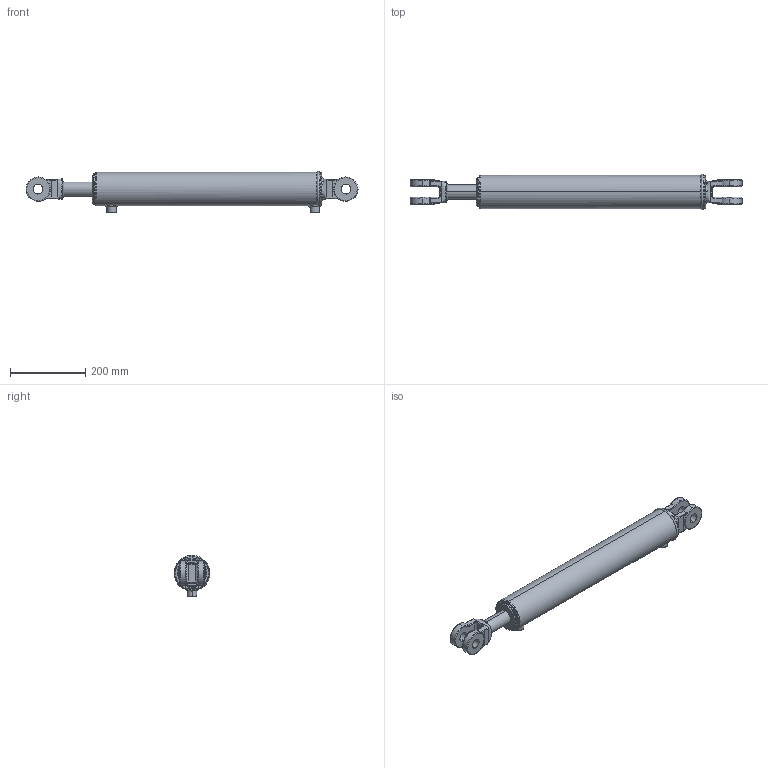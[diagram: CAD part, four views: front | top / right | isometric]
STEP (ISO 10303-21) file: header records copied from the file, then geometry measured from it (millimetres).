
FILE_DESCRIPTION (( 'STEP AP203' ), '1' );
FILE_NAME ('CL-CL300150x508 (20).STEP', '2014-11-21T23:31:13', ( '' ), ( '' ), 'SwSTEP 2.0', 'SolidWorks 2014', '' );
FILE_SCHEMA (( 'CONFIG_CONTROL_DESIGN' ));
Length unit declared in the file: millimetre
Products named in the file (4): CL-CL300150x  body_3x20; 3 in ext circlip; SPARE 6_20x1.5; CL-CL300150x508 (20)
Assembly tree (3 placements, depth 2):
  CL-CL300150x508 (20)
    CL-CL300150x  body_3x20
    3 in ext circlip
    SPARE 6_20x1.5
Bounding box: 882.39 x 94.87 x 109.9 mm (x, y, z)
Volume: 4283564.2 mm3; surface area: 383871.1 mm2
Topology: 3 solids, 3 shells, 212 faces, 515 edges, 316 vertices
Faces by surface type: cylinder 92, bspline 61, plane 37, torus 14, cone 8
Entity records: 11771 total; most frequent: CARTESIAN_POINT 6695, ORIENTED_EDGE 1022, DIRECTION 943, EDGE_CURVE 511, AXIS2_PLACEMENT_3D 393, VERTEX_POINT 316, CIRCLE 236, EDGE_LOOP 235
